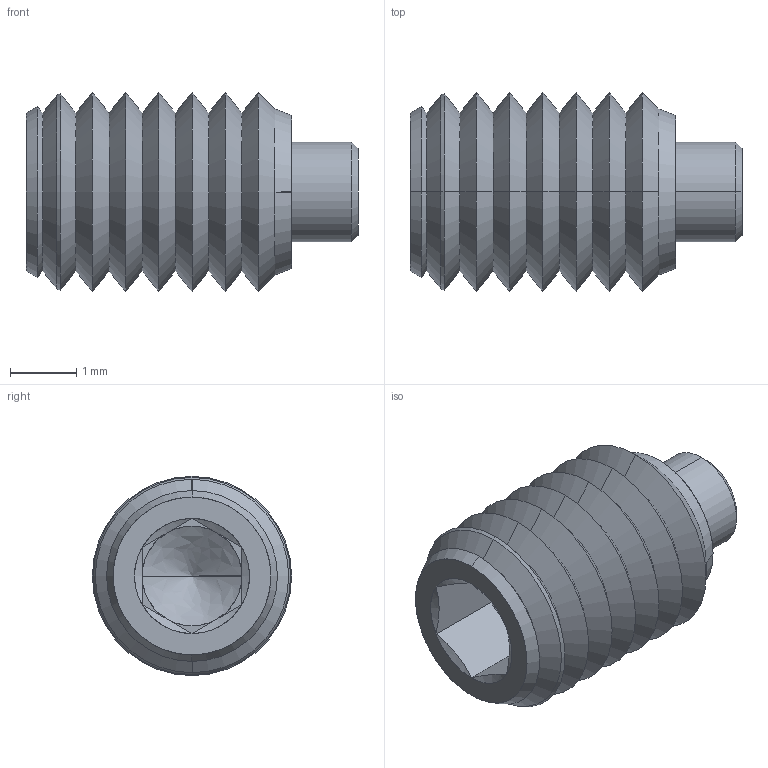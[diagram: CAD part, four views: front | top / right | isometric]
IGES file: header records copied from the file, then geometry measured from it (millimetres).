
Start section: SolidWorks IGES file using analytic representation for surfaces
Global section: file name: C:\Users\IanO\Desktop\P0120_v2_230406\P0120_v2_20230506_IGES\P0120.030-004.igs; native system: SolidWorks 2019; preprocessor: SolidWorks 2019; author: IanO; date: 230406.142141; units: millimetre
Bounding box: 5 x 3 x 3 mm (x, y, z)
Surface area: 85.2 mm2 (no closed solid volume)
Topology: 0 solids, 0 shells, 67 faces, 450 edges, 448 vertices
Faces by surface type: revolution 50, bspline 17
